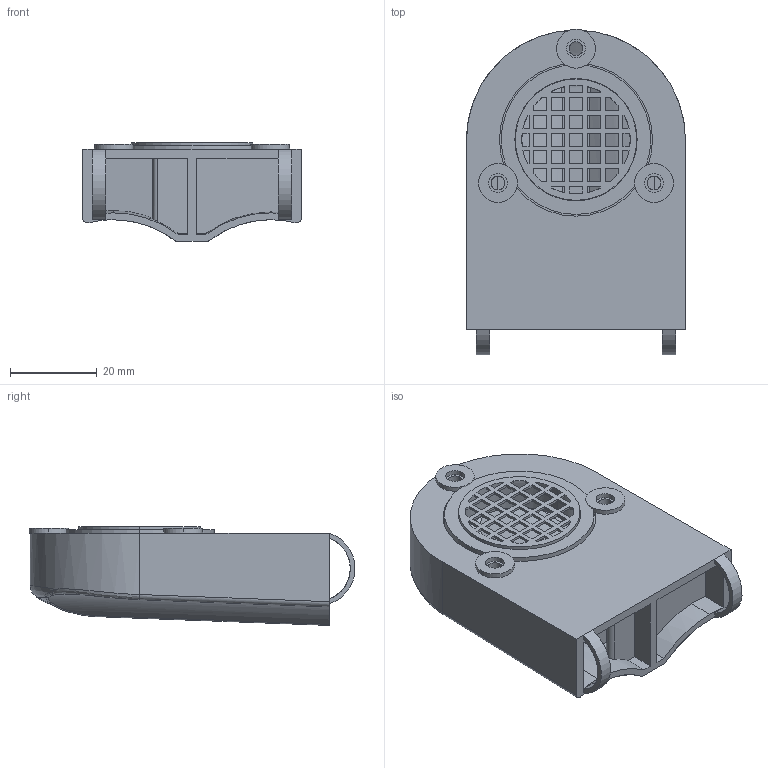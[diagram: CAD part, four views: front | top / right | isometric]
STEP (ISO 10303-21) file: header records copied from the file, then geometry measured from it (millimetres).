
FILE_DESCRIPTION (( 'STEP AP203' ), '1' );
FILE_NAME ('anmv6.STEP', '2015-12-02T19:05:44', ( '' ), ( '' ), 'SwSTEP 2.0', 'SolidWorks 2014', '' );
FILE_SCHEMA (( 'CONFIG_CONTROL_DESIGN' ));
Length unit declared in the file: millimetre
Products named in the file (4): 89131001; 89130998; 89130999; anmv6
Assembly tree (5 placements, depth 2):
  anmv6
    89131001
    89130998
    89130999  x3
Bounding box: 50.5 x 75.14 x 22.8 mm (x, y, z)
Volume: 875.6 mm3; surface area: 28098.9 mm2
Topology: 4 solids, 10 shells, 280 faces, 838 edges, 562 vertices
Faces by surface type: plane 186, cylinder 79, bspline 15
Entity records: 12184 total; most frequent: CARTESIAN_POINT 4544, ORIENTED_EDGE 1580, DIRECTION 1301, EDGE_CURVE 814, VECTOR 593, LINE 593, VERTEX_POINT 548, AXIS2_PLACEMENT_3D 354
